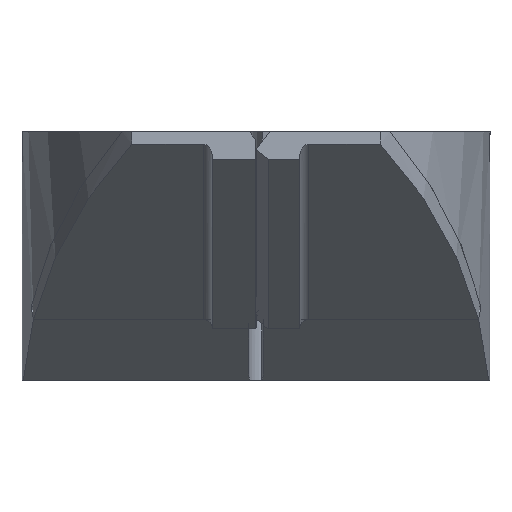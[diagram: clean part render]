
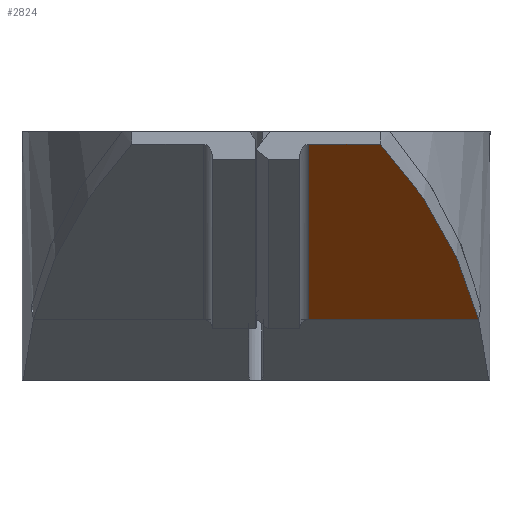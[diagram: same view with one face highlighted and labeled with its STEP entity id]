
A CAD part, left-side view. The second image highlights one B-rep face of the part: STEP entity #2824.
In plain terms, the highlighted planar face has unit normal (-0.643, 0, -0.766).
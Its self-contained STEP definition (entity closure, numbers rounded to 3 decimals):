
#549 = VECTOR ( 'NONE', #1153, 1000. ) ;
#695 = CARTESIAN_POINT ( 'NONE',  ( -36., -3.6, -0.852 ) ) ;
#935 = ORIENTED_EDGE ( 'NONE', *, *, #6512, .T. ) ;
#946 = VERTEX_POINT ( 'NONE', #695 ) ;
#978 = ORIENTED_EDGE ( 'NONE', *, *, #6452, .T. ) ;
#1153 = DIRECTION ( 'NONE',  ( 0., 1., 0. ) ) ;
#1289 = DIRECTION ( 'NONE',  ( -0.643, 0., -0.766 ) ) ;
#1487 = EDGE_CURVE ( 'NONE', #946, #2194, #6831, .T. ) ;
#1644 = CARTESIAN_POINT ( 'NONE',  ( -21.697, -9.41, -12.854 ) ) ;
#1915 =( BOUNDED_CURVE ( )  B_SPLINE_CURVE ( 3, ( #2445, #7001, #7032, #3597 ),
 .UNSPECIFIED., .F., .T. ) 
 B_SPLINE_CURVE_WITH_KNOTS ( ( 4, 4 ),
 ( 4.045, 4.501 ),
 .UNSPECIFIED. ) 
 CURVE ( )  GEOMETRIC_REPRESENTATION_ITEM ( )  RATIONAL_B_SPLINE_CURVE ( ( 1., 0.983, 0.983, 1. ) ) 
 REPRESENTATION_ITEM ( '' )  );
#1976 = EDGE_CURVE ( 'NONE', #4260, #2615, #1915, .T. ) ;
#2085 = CARTESIAN_POINT ( 'NONE',  ( -21.697, -15.22, -12.854 ) ) ;
#2194 = VERTEX_POINT ( 'NONE', #6548 ) ;
#2445 = CARTESIAN_POINT ( 'NONE',  ( -36., -8.5, -0.852 ) ) ;
#2615 = VERTEX_POINT ( 'NONE', #2085 ) ;
#2821 = LINE ( 'NONE', #1644, #5687 ) ;
#2824 = ADVANCED_FACE ( 'NONE', ( #3396 ), #5832, .T. ) ;
#3145 = ORIENTED_EDGE ( 'NONE', *, *, #1976, .F. ) ;
#3355 = DIRECTION ( 'NONE',  ( 0., -1., 0. ) ) ;
#3396 = FACE_OUTER_BOUND ( 'NONE', #6857, .T. ) ;
#3597 = CARTESIAN_POINT ( 'NONE',  ( -21.697, -15.22, -12.854 ) ) ;
#4260 = VERTEX_POINT ( 'NONE', #7042 ) ;
#4605 = CARTESIAN_POINT ( 'NONE',  ( -36., -9.41, -0.852 ) ) ;
#4694 = ORIENTED_EDGE ( 'NONE', *, *, #1487, .T. ) ;
#4729 = CARTESIAN_POINT ( 'NONE',  ( -21.697, -15.22, -12.854 ) ) ;
#4974 = LINE ( 'NONE', #4605, #549 ) ;
#5290 = DIRECTION ( 'NONE',  ( -0.766, 0., 0.643 ) ) ;
#5315 = VECTOR ( 'NONE', #7058, 1000. ) ;
#5388 = AXIS2_PLACEMENT_3D ( 'NONE', #4729, #1289, #5290 ) ;
#5687 = VECTOR ( 'NONE', #3355, 1000. ) ;
#5832 = PLANE ( 'NONE',  #5388 ) ;
#6452 = EDGE_CURVE ( 'NONE', #2194, #2615, #2821, .T. ) ;
#6512 = EDGE_CURVE ( 'NONE', #4260, #946, #4974, .T. ) ;
#6548 = CARTESIAN_POINT ( 'NONE',  ( -21.697, -3.6, -12.854 ) ) ;
#6831 = LINE ( 'NONE', #7387, #5315 ) ;
#6857 = EDGE_LOOP ( 'NONE', ( #935, #4694, #978, #3145 ) ) ;
#7001 = CARTESIAN_POINT ( 'NONE',  ( -31.789, -11.816, -4.386 ) ) ;
#7032 = CARTESIAN_POINT ( 'NONE',  ( -26.937, -14.095, -8.456 ) ) ;
#7042 = CARTESIAN_POINT ( 'NONE',  ( -36., -8.5, -0.852 ) ) ;
#7058 = DIRECTION ( 'NONE',  ( 0.766, 0., -0.643 ) ) ;
#7387 = CARTESIAN_POINT ( 'NONE',  ( -28.848, -3.6, -6.853 ) ) ;
